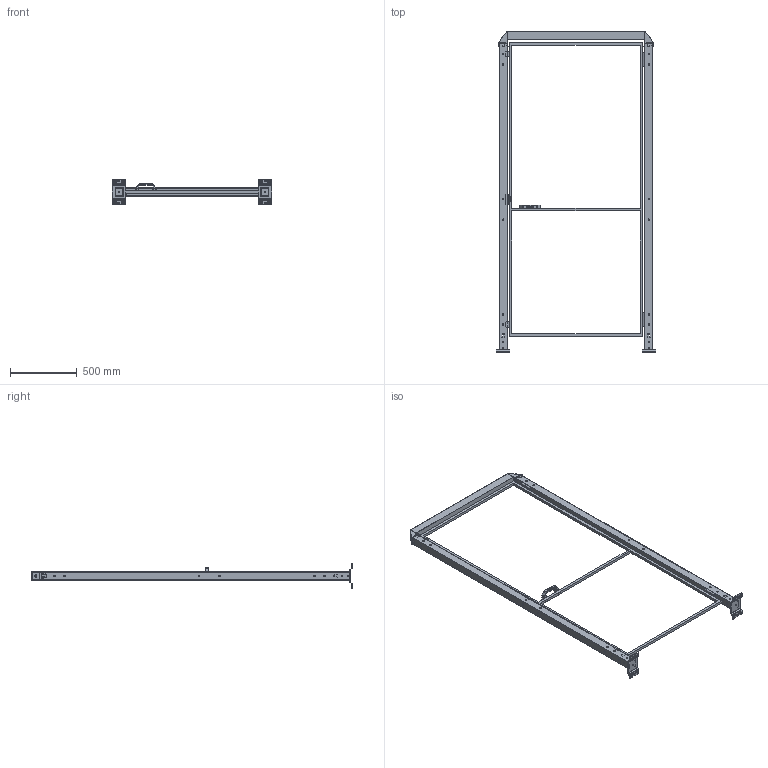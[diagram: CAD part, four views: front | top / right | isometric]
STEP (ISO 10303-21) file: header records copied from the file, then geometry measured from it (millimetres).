
FILE_DESCRIPTION(('STEP AP242'),'1');
FILE_NAME('vfda_bscndr2_10002320.stp','2025-01-23T13:46:16',('TraceParts'),('TraceParts S.A.'),'Spatial InterOp 3D',' ',' ');
FILE_SCHEMA(('AP242_MANAGED_MODEL_BASED_3D_ENGINEERING_MIM_LF {1 0 10303 442 1 1 4}'));
Length unit declared in the file: millimetre
Products named in the file (1): vfda_bscndr2_10002320_1
Bounding box: 1190 x 2401 x 192 mm (x, y, z)
Volume: 5329532.7 mm3; surface area: 3469236.2 mm2
Topology: 12 solids, 12 shells, 1874 faces, 5016 edges, 3212 vertices
Faces by surface type: plane 906, cylinder 628, bspline 236, cone 60, torus 40, sphere 4
Entity records: 75648 total; most frequent: CARTESIAN_POINT 13827, ORIENTED_EDGE 10024, DIRECTION 9202, EDGE_CURVE 5012, VERTEX_POINT 3212, LINE 3072, VECTOR 3072, AXIS2_PLACEMENT_3D 3065
